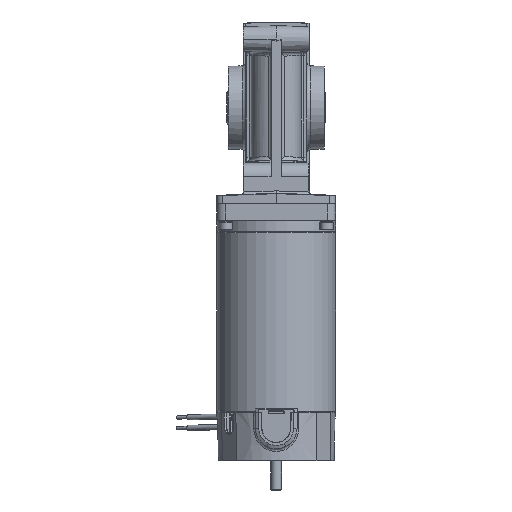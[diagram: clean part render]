
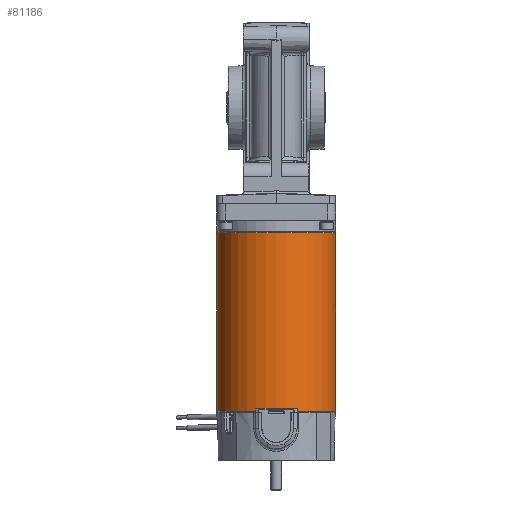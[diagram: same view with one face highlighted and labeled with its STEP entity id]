
A CAD part, front view. The second image highlights one B-rep face of the part: STEP entity #81186.
In plain terms, the highlighted cylindrical face has radius 45 mm (diameter 90 mm), a partial arc.
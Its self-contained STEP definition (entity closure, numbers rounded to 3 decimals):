
#1088 = CARTESIAN_POINT ( 'NONE',  ( 160.408, -30.649, -197.794 ) ) ;
#1457 = AXIS2_PLACEMENT_3D ( 'NONE', #10185, #100653, #34518 ) ;
#4826 = EDGE_CURVE ( 'NONE', #55614, #76877, #109747, .T. ) ;
#6508 = ORIENTED_EDGE ( 'NONE', *, *, #122362, .T. ) ;
#9479 = CARTESIAN_POINT ( 'NONE',  ( 250.408, -30.649, -333.444 ) ) ;
#10185 = CARTESIAN_POINT ( 'NONE',  ( 205.408, -30.649, -197.794 ) ) ;
#13123 = VERTEX_POINT ( 'NONE', #120907 ) ;
#13910 = ORIENTED_EDGE ( 'NONE', *, *, #4826, .T. ) ;
#23354 = EDGE_CURVE ( 'NONE', #126706, #89098, #142066, .T. ) ;
#26258 = EDGE_LOOP ( 'NONE', ( #51234, #46703, #13910, #139818, #6508 ) ) ;
#34518 = DIRECTION ( 'NONE',  ( -1., 0., 0. ) ) ;
#35611 = EDGE_CURVE ( 'NONE', #76877, #13123, #117550, .T. ) ;
#38426 = AXIS2_PLACEMENT_3D ( 'NONE', #99252, #89178, #76952 ) ;
#43643 = CARTESIAN_POINT ( 'NONE',  ( 160.408, -30.649, -333.444 ) ) ;
#44623 = VECTOR ( 'NONE', #99099, 1000. ) ;
#46703 = ORIENTED_EDGE ( 'NONE', *, *, #139115, .T. ) ;
#46735 = AXIS2_PLACEMENT_3D ( 'NONE', #105191, #128786, #106604 ) ;
#51234 = ORIENTED_EDGE ( 'NONE', *, *, #23354, .F. ) ;
#51996 = CIRCLE ( 'NONE', #65792, 45. ) ;
#55614 = VERTEX_POINT ( 'NONE', #140640 ) ;
#63110 = DIRECTION ( 'NONE',  ( 1., 0., 0. ) ) ;
#65792 = AXIS2_PLACEMENT_3D ( 'NONE', #109925, #96984, #63110 ) ;
#72063 = FACE_OUTER_BOUND ( 'NONE', #26258, .T. ) ;
#75863 = DIRECTION ( 'NONE',  ( 0., 0., 1. ) ) ;
#76877 = VERTEX_POINT ( 'NONE', #9479 ) ;
#76952 = DIRECTION ( 'NONE',  ( 1., 0., 0. ) ) ;
#81186 = ADVANCED_FACE ( 'NONE', ( #72063 ), #138788, .T. ) ;
#82477 = CARTESIAN_POINT ( 'NONE',  ( 160.408, -30.649, -333.444 ) ) ;
#89098 = VERTEX_POINT ( 'NONE', #1088 ) ;
#89178 = DIRECTION ( 'NONE',  ( 0., 0., 1. ) ) ;
#96984 = DIRECTION ( 'NONE',  ( 0., 0., 1. ) ) ;
#99099 = DIRECTION ( 'NONE',  ( 0., 0., 1. ) ) ;
#99252 = CARTESIAN_POINT ( 'NONE',  ( 205.408, -30.649, -333.444 ) ) ;
#100653 = DIRECTION ( 'NONE',  ( 0., 0., -1. ) ) ;
#105191 = CARTESIAN_POINT ( 'NONE',  ( 205.408, -30.649, -333.444 ) ) ;
#106604 = DIRECTION ( 'NONE',  ( 1., 0., 0. ) ) ;
#109747 = CIRCLE ( 'NONE', #38426, 45. ) ;
#109925 = CARTESIAN_POINT ( 'NONE',  ( 205.408, -30.649, -333.444 ) ) ;
#115445 = VECTOR ( 'NONE', #75863, 1000. ) ;
#117550 = LINE ( 'NONE', #127615, #115445 ) ;
#120907 = CARTESIAN_POINT ( 'NONE',  ( 250.408, -30.649, -197.794 ) ) ;
#122362 = EDGE_CURVE ( 'NONE', #13123, #89098, #132124, .T. ) ;
#126706 = VERTEX_POINT ( 'NONE', #82477 ) ;
#127615 = CARTESIAN_POINT ( 'NONE',  ( 250.408, -30.649, -333.444 ) ) ;
#128786 = DIRECTION ( 'NONE',  ( 0., 0., 1. ) ) ;
#132124 = CIRCLE ( 'NONE', #1457, 45. ) ;
#138788 = CYLINDRICAL_SURFACE ( 'NONE', #46735, 45. ) ;
#139115 = EDGE_CURVE ( 'NONE', #126706, #55614, #51996, .T. ) ;
#139818 = ORIENTED_EDGE ( 'NONE', *, *, #35611, .T. ) ;
#140640 = CARTESIAN_POINT ( 'NONE',  ( 205.408, -75.649, -333.444 ) ) ;
#142066 = LINE ( 'NONE', #43643, #44623 ) ;
